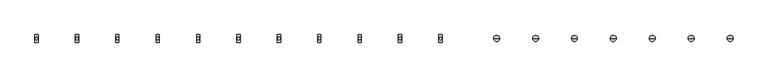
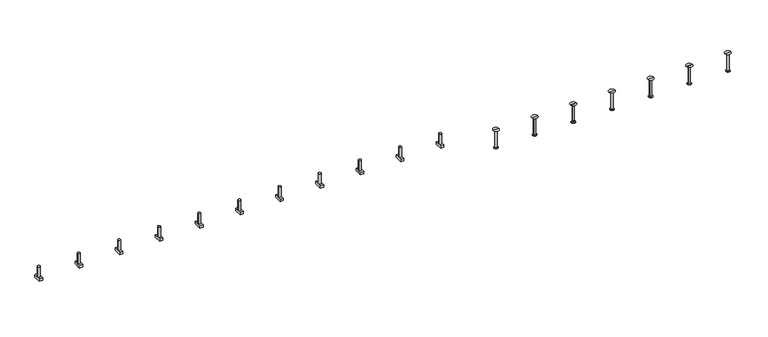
"""IFC4 building model written with IfcOpenShell, lengths in millimetres: fastener geometry, JTA-W JORDAHL® AnchorChannels : JTA-W L=6000 mm."""

from ifc_helpers import new_model, si_unit, frame, origin, place, context, project, spatial, polyline, circle_curve, source, transform, mapped, element, save
from ifc_brep_helpers import plane_surface, cylinder_surface, revolved_surface, advanced_brep


def fastener_a53ba8c5(model_context):
    return source(origin(), model_context, "Body", "AdvancedBrep", [
        advanced_brep(
        [(3474.3421053, 29.0, -10.0), (3474.3421053, -29.0, -10.0), (3474.3421053, -29.0, -30.0), (3474.3421053, 29.0, -30.0), (3449.3421053, 29.0, -10.0), (3449.3421053, 29.0, -30.0), (3449.3421053, -29.0, -30.0), (3449.3421053, -29.0, -10.0), (3471.8421053, 0.0, -10.0), (3451.8421053, 0.0, -10.0), (3451.8421053, 0.0, 70.0), (3471.8421053, 0.0, 70.0)],
        [
            (0, 1),
            (1, 2),
            (2, 3),
            (3, 0),
            (4, 5),
            (5, 6),
            (6, 7),
            (7, 4),
            (0, 4),
            (7, 1),
            (8, 9, circle_curve(frame((3461.8421053, 0.0, -10.0), z_axis=(0.0, 0.0, -1.0), x_axis=(1.0, 0.0, 0.0)), 10.0)),
            (9, 8, circle_curve(frame((3461.8421053, 0.0, -10.0), z_axis=(0.0, 0.0, -1.0), x_axis=(1.0, 0.0, 0.0)), 10.0)),
            (6, 2),
            (5, 3),
            (10, 11, circle_curve(frame((3461.8421053, 0.0, 70.0), z_axis=(0.0, 0.0, 1.0), x_axis=(1.0, 0.0, 0.0)), 10.0)),
            (11, 10, circle_curve(frame((3461.8421053, 0.0, 70.0), z_axis=(0.0, 0.0, 1.0), x_axis=(1.0, 0.0, 0.0)), 10.0)),
            (10, 9),
            (8, 11),
        ],
        [
            plane_surface(frame((3474.3421053, -29.0, -10.0), z_axis=(1.0, 0.0, 0.0), x_axis=(0.0, -1.0, 0.0))),
            plane_surface(frame((3449.3421053, -29.0, -10.0), z_axis=(-1.0, 0.0, 0.0), x_axis=(0.0, 1.0, 0.0))),
            plane_surface(frame((3474.3421053, 29.0, -10.0), z_axis=(0.0, 0.0, 1.0), x_axis=(-1.0, 0.0, 0.0))),
            plane_surface(frame((3474.3421053, -29.0, -10.0), z_axis=(0.0, -1.0, 0.0), x_axis=(-1.0, 0.0, 0.0))),
            plane_surface(frame((3474.3421053, -29.0, -30.0), z_axis=(0.0, 0.0, -1.0), x_axis=(-1.0, 0.0, 0.0))),
            plane_surface(frame((3474.3421053, 29.0, -30.0), z_axis=(0.0, 1.0, 0.0), x_axis=(-1.0, 0.0, 0.0))),
            plane_surface(frame((3471.8421053, 0.0, 70.0), z_axis=(0.0, 0.0, 1.0), x_axis=(0.0, 1.0, 0.0))),
            cylinder_surface(frame((3461.8421053, 0.0, -10.0), z_axis=(0.0, 0.0, 1.0), x_axis=(1.0, 0.0, 0.0)), 10.0),
        ],
        [
            (0, [[1, 2, 3, 4]]),
            (1, [[5, 6, 7, 8]]),
            (2, [[-1, 9, -8, 10], [11, 12]]),
            (3, [[-2, -10, -7, 13]]),
            (4, [[-3, -13, -6, 14]]),
            (5, [[-4, -14, -5, -9]]),
            (6, [[15, 16]]),
            (7, [[-15, 17, -11, 18]]),
            (7, [[-16, -18, -12, -17]]),
        ],
    ),
        advanced_brep(
        [(3166.4473684, 29.0, -10.0), (3166.4473684, -29.0, -10.0), (3166.4473684, -29.0, -30.0), (3166.4473684, 29.0, -30.0), (3141.4473684, 29.0, -10.0), (3141.4473684, 29.0, -30.0), (3141.4473684, -29.0, -30.0), (3141.4473684, -29.0, -10.0), (3163.9473684, 0.0, -10.0), (3143.9473684, 0.0, -10.0), (3143.9473684, 0.0, 70.0), (3163.9473684, 0.0, 70.0)],
        [
            (0, 1),
            (1, 2),
            (2, 3),
            (3, 0),
            (4, 5),
            (5, 6),
            (6, 7),
            (7, 4),
            (0, 4),
            (7, 1),
            (8, 9, circle_curve(frame((3153.9473684, 0.0, -10.0), z_axis=(0.0, 0.0, -1.0), x_axis=(1.0, 0.0, 0.0)), 10.0)),
            (9, 8, circle_curve(frame((3153.9473684, 0.0, -10.0), z_axis=(0.0, 0.0, -1.0), x_axis=(1.0, 0.0, 0.0)), 10.0)),
            (6, 2),
            (5, 3),
            (10, 11, circle_curve(frame((3153.9473684, 0.0, 70.0), z_axis=(0.0, 0.0, 1.0), x_axis=(1.0, 0.0, 0.0)), 10.0)),
            (11, 10, circle_curve(frame((3153.9473684, 0.0, 70.0), z_axis=(0.0, 0.0, 1.0), x_axis=(1.0, 0.0, 0.0)), 10.0)),
            (10, 9),
            (8, 11),
        ],
        [
            plane_surface(frame((3166.4473684, -29.0, -10.0), z_axis=(1.0, 0.0, 0.0), x_axis=(0.0, -1.0, 0.0))),
            plane_surface(frame((3141.4473684, -29.0, -10.0), z_axis=(-1.0, 0.0, 0.0), x_axis=(0.0, 1.0, 0.0))),
            plane_surface(frame((3166.4473684, 29.0, -10.0), z_axis=(0.0, 0.0, 1.0), x_axis=(-1.0, 0.0, 0.0))),
            plane_surface(frame((3166.4473684, -29.0, -10.0), z_axis=(0.0, -1.0, 0.0), x_axis=(-1.0, 0.0, 0.0))),
            plane_surface(frame((3166.4473684, -29.0, -30.0), z_axis=(0.0, 0.0, -1.0), x_axis=(-1.0, 0.0, 0.0))),
            plane_surface(frame((3166.4473684, 29.0, -30.0), z_axis=(0.0, 1.0, 0.0), x_axis=(-1.0, 0.0, 0.0))),
            plane_surface(frame((3163.9473684, 0.0, 70.0), z_axis=(0.0, 0.0, 1.0), x_axis=(0.0, 1.0, 0.0))),
            cylinder_surface(frame((3153.9473684, 0.0, -10.0), z_axis=(0.0, 0.0, 1.0), x_axis=(1.0, 0.0, 0.0)), 10.0),
        ],
        [
            (0, [[1, 2, 3, 4]]),
            (1, [[5, 6, 7, 8]]),
            (2, [[-1, 9, -8, 10], [11, 12]]),
            (3, [[-2, -10, -7, 13]]),
            (4, [[-3, -13, -6, 14]]),
            (5, [[-4, -14, -5, -9]]),
            (6, [[15, 16]]),
            (7, [[-15, 17, -11, 18]]),
            (7, [[-16, -18, -12, -17]]),
        ],
    ),
        advanced_brep(
        [(2858.5526316, 29.0, -10.0), (2858.5526316, -29.0, -10.0), (2858.5526316, -29.0, -30.0), (2858.5526316, 29.0, -30.0), (2833.5526316, 29.0, -10.0), (2833.5526316, 29.0, -30.0), (2833.5526316, -29.0, -30.0), (2833.5526316, -29.0, -10.0), (2856.0526316, 0.0, -10.0), (2836.0526316, 0.0, -10.0), (2836.0526316, 0.0, 70.0), (2856.0526316, 0.0, 70.0)],
        [
            (0, 1),
            (1, 2),
            (2, 3),
            (3, 0),
            (4, 5),
            (5, 6),
            (6, 7),
            (7, 4),
            (0, 4),
            (7, 1),
            (8, 9, circle_curve(frame((2846.0526316, 0.0, -10.0), z_axis=(0.0, 0.0, -1.0), x_axis=(1.0, 0.0, 0.0)), 10.0)),
            (9, 8, circle_curve(frame((2846.0526316, 0.0, -10.0), z_axis=(0.0, 0.0, -1.0), x_axis=(1.0, 0.0, 0.0)), 10.0)),
            (6, 2),
            (5, 3),
            (10, 11, circle_curve(frame((2846.0526316, 0.0, 70.0), z_axis=(0.0, 0.0, 1.0), x_axis=(1.0, 0.0, 0.0)), 10.0)),
            (11, 10, circle_curve(frame((2846.0526316, 0.0, 70.0), z_axis=(0.0, 0.0, 1.0), x_axis=(1.0, 0.0, 0.0)), 10.0)),
            (10, 9),
            (8, 11),
        ],
        [
            plane_surface(frame((2858.5526316, -29.0, -10.0), z_axis=(1.0, 0.0, 0.0), x_axis=(0.0, -1.0, 0.0))),
            plane_surface(frame((2833.5526316, -29.0, -10.0), z_axis=(-1.0, 0.0, 0.0), x_axis=(0.0, 1.0, 0.0))),
            plane_surface(frame((2858.5526316, 29.0, -10.0), z_axis=(0.0, 0.0, 1.0), x_axis=(-1.0, 0.0, 0.0))),
            plane_surface(frame((2858.5526316, -29.0, -10.0), z_axis=(0.0, -1.0, 0.0), x_axis=(-1.0, 0.0, 0.0))),
            plane_surface(frame((2858.5526316, -29.0, -30.0), z_axis=(0.0, 0.0, -1.0), x_axis=(-1.0, 0.0, 0.0))),
            plane_surface(frame((2858.5526316, 29.0, -30.0), z_axis=(0.0, 1.0, 0.0), x_axis=(-1.0, 0.0, 0.0))),
            plane_surface(frame((2856.0526316, 0.0, 70.0), z_axis=(0.0, 0.0, 1.0), x_axis=(0.0, 1.0, 0.0))),
            cylinder_surface(frame((2846.0526316, 0.0, -10.0), z_axis=(0.0, 0.0, 1.0), x_axis=(1.0, 0.0, 0.0)), 10.0),
        ],
        [
            (0, [[1, 2, 3, 4]]),
            (1, [[5, 6, 7, 8]]),
            (2, [[-1, 9, -8, 10], [11, 12]]),
            (3, [[-2, -10, -7, 13]]),
            (4, [[-3, -13, -6, 14]]),
            (5, [[-4, -14, -5, -9]]),
            (6, [[15, 16]]),
            (7, [[-15, 17, -11, 18]]),
            (7, [[-16, -18, -12, -17]]),
        ],
    ),
        advanced_brep(
        [(2550.6578947, 29.0, -10.0), (2550.6578947, -29.0, -10.0), (2550.6578947, -29.0, -30.0), (2550.6578947, 29.0, -30.0), (2525.6578947, 29.0, -10.0), (2525.6578947, 29.0, -30.0), (2525.6578947, -29.0, -30.0), (2525.6578947, -29.0, -10.0), (2548.1578947, 0.0, -10.0), (2528.1578947, 0.0, -10.0), (2528.1578947, 0.0, 70.0), (2548.1578947, 0.0, 70.0)],
        [
            (0, 1),
            (1, 2),
            (2, 3),
            (3, 0),
            (4, 5),
            (5, 6),
            (6, 7),
            (7, 4),
            (0, 4),
            (7, 1),
            (8, 9, circle_curve(frame((2538.1578947, 0.0, -10.0), z_axis=(0.0, 0.0, -1.0), x_axis=(1.0, 0.0, 0.0)), 10.0)),
            (9, 8, circle_curve(frame((2538.1578947, 0.0, -10.0), z_axis=(0.0, 0.0, -1.0), x_axis=(1.0, 0.0, 0.0)), 10.0)),
            (6, 2),
            (5, 3),
            (10, 11, circle_curve(frame((2538.1578947, 0.0, 70.0), z_axis=(0.0, 0.0, 1.0), x_axis=(1.0, 0.0, 0.0)), 10.0)),
            (11, 10, circle_curve(frame((2538.1578947, 0.0, 70.0), z_axis=(0.0, 0.0, 1.0), x_axis=(1.0, 0.0, 0.0)), 10.0)),
            (10, 9),
            (8, 11),
        ],
        [
            plane_surface(frame((2550.6578947, -29.0, -10.0), z_axis=(1.0, 0.0, 0.0), x_axis=(0.0, -1.0, 0.0))),
            plane_surface(frame((2525.6578947, -29.0, -10.0), z_axis=(-1.0, 0.0, 0.0), x_axis=(0.0, 1.0, 0.0))),
            plane_surface(frame((2550.6578947, 29.0, -10.0), z_axis=(0.0, 0.0, 1.0), x_axis=(-1.0, 0.0, 0.0))),
            plane_surface(frame((2550.6578947, -29.0, -10.0), z_axis=(0.0, -1.0, 0.0), x_axis=(-1.0, 0.0, 0.0))),
            plane_surface(frame((2550.6578947, -29.0, -30.0), z_axis=(0.0, 0.0, -1.0), x_axis=(-1.0, 0.0, 0.0))),
            plane_surface(frame((2550.6578947, 29.0, -30.0), z_axis=(0.0, 1.0, 0.0), x_axis=(-1.0, 0.0, 0.0))),
            plane_surface(frame((2548.1578947, 0.0, 70.0), z_axis=(0.0, 0.0, 1.0), x_axis=(0.0, 1.0, 0.0))),
            cylinder_surface(frame((2538.1578947, 0.0, -10.0), z_axis=(0.0, 0.0, 1.0), x_axis=(1.0, 0.0, 0.0)), 10.0),
        ],
        [
            (0, [[1, 2, 3, 4]]),
            (1, [[5, 6, 7, 8]]),
            (2, [[-1, 9, -8, 10], [11, 12]]),
            (3, [[-2, -10, -7, 13]]),
            (4, [[-3, -13, -6, 14]]),
            (5, [[-4, -14, -5, -9]]),
            (6, [[15, 16]]),
            (7, [[-15, 17, -11, 18]]),
            (7, [[-16, -18, -12, -17]]),
        ],
    ),
        advanced_brep(
        [(2242.7631579, 29.0, -10.0), (2242.7631579, -29.0, -10.0), (2242.7631579, -29.0, -30.0), (2242.7631579, 29.0, -30.0), (2217.7631579, 29.0, -10.0), (2217.7631579, 29.0, -30.0), (2217.7631579, -29.0, -30.0), (2217.7631579, -29.0, -10.0), (2240.2631579, 0.0, -10.0), (2220.2631579, 0.0, -10.0), (2220.2631579, 0.0, 70.0), (2240.2631579, 0.0, 70.0)],
        [
            (0, 1),
            (1, 2),
            (2, 3),
            (3, 0),
            (4, 5),
            (5, 6),
            (6, 7),
            (7, 4),
            (0, 4),
            (7, 1),
            (8, 9, circle_curve(frame((2230.2631579, 0.0, -10.0), z_axis=(0.0, 0.0, -1.0), x_axis=(1.0, 0.0, 0.0)), 10.0)),
            (9, 8, circle_curve(frame((2230.2631579, 0.0, -10.0), z_axis=(0.0, 0.0, -1.0), x_axis=(1.0, 0.0, 0.0)), 10.0)),
            (6, 2),
            (5, 3),
            (10, 11, circle_curve(frame((2230.2631579, 0.0, 70.0), z_axis=(0.0, 0.0, 1.0), x_axis=(1.0, 0.0, 0.0)), 10.0)),
            (11, 10, circle_curve(frame((2230.2631579, 0.0, 70.0), z_axis=(0.0, 0.0, 1.0), x_axis=(1.0, 0.0, 0.0)), 10.0)),
            (10, 9),
            (8, 11),
        ],
        [
            plane_surface(frame((2242.7631579, -29.0, -10.0), z_axis=(1.0, 0.0, 0.0), x_axis=(0.0, -1.0, 0.0))),
            plane_surface(frame((2217.7631579, -29.0, -10.0), z_axis=(-1.0, 0.0, 0.0), x_axis=(0.0, 1.0, 0.0))),
            plane_surface(frame((2242.7631579, 29.0, -10.0), z_axis=(0.0, 0.0, 1.0), x_axis=(-1.0, 0.0, 0.0))),
            plane_surface(frame((2242.7631579, -29.0, -10.0), z_axis=(0.0, -1.0, 0.0), x_axis=(-1.0, 0.0, 0.0))),
            plane_surface(frame((2242.7631579, -29.0, -30.0), z_axis=(0.0, 0.0, -1.0), x_axis=(-1.0, 0.0, 0.0))),
            plane_surface(frame((2242.7631579, 29.0, -30.0), z_axis=(0.0, 1.0, 0.0), x_axis=(-1.0, 0.0, 0.0))),
            plane_surface(frame((2240.2631579, 0.0, 70.0), z_axis=(0.0, 0.0, 1.0), x_axis=(0.0, 1.0, 0.0))),
            cylinder_surface(frame((2230.2631579, 0.0, -10.0), z_axis=(0.0, 0.0, 1.0), x_axis=(1.0, 0.0, 0.0)), 10.0),
        ],
        [
            (0, [[1, 2, 3, 4]]),
            (1, [[5, 6, 7, 8]]),
            (2, [[-1, 9, -8, 10], [11, 12]]),
            (3, [[-2, -10, -7, 13]]),
            (4, [[-3, -13, -6, 14]]),
            (5, [[-4, -14, -5, -9]]),
            (6, [[15, 16]]),
            (7, [[-15, 17, -11, 18]]),
            (7, [[-16, -18, -12, -17]]),
        ],
    ),
        advanced_brep(
        [(1934.8684211, 29.0, -10.0), (1934.8684211, -29.0, -10.0), (1934.8684211, -29.0, -30.0), (1934.8684211, 29.0, -30.0), (1909.8684211, 29.0, -10.0), (1909.8684211, 29.0, -30.0), (1909.8684211, -29.0, -30.0), (1909.8684211, -29.0, -10.0), (1932.3684211, 0.0, -10.0), (1912.3684211, 0.0, -10.0), (1912.3684211, 0.0, 70.0), (1932.3684211, 0.0, 70.0)],
        [
            (0, 1),
            (1, 2),
            (2, 3),
            (3, 0),
            (4, 5),
            (5, 6),
            (6, 7),
            (7, 4),
            (0, 4),
            (7, 1),
            (8, 9, circle_curve(frame((1922.3684211, 0.0, -10.0), z_axis=(0.0, 0.0, -1.0), x_axis=(1.0, 0.0, 0.0)), 10.0)),
            (9, 8, circle_curve(frame((1922.3684211, 0.0, -10.0), z_axis=(0.0, 0.0, -1.0), x_axis=(1.0, 0.0, 0.0)), 10.0)),
            (6, 2),
            (5, 3),
            (10, 11, circle_curve(frame((1922.3684211, 0.0, 70.0), z_axis=(0.0, 0.0, 1.0), x_axis=(1.0, 0.0, 0.0)), 10.0)),
            (11, 10, circle_curve(frame((1922.3684211, 0.0, 70.0), z_axis=(0.0, 0.0, 1.0), x_axis=(1.0, 0.0, 0.0)), 10.0)),
            (10, 9),
            (8, 11),
        ],
        [
            plane_surface(frame((1934.8684211, -29.0, -10.0), z_axis=(1.0, 0.0, 0.0), x_axis=(0.0, -1.0, 0.0))),
            plane_surface(frame((1909.8684211, -29.0, -10.0), z_axis=(-1.0, 0.0, 0.0), x_axis=(0.0, 1.0, 0.0))),
            plane_surface(frame((1934.8684211, 29.0, -10.0), z_axis=(0.0, 0.0, 1.0), x_axis=(-1.0, 0.0, 0.0))),
            plane_surface(frame((1934.8684211, -29.0, -10.0), z_axis=(0.0, -1.0, 0.0), x_axis=(-1.0, 0.0, 0.0))),
            plane_surface(frame((1934.8684211, -29.0, -30.0), z_axis=(0.0, 0.0, -1.0), x_axis=(-1.0, 0.0, 0.0))),
            plane_surface(frame((1934.8684211, 29.0, -30.0), z_axis=(0.0, 1.0, 0.0), x_axis=(-1.0, 0.0, 0.0))),
            plane_surface(frame((1932.3684211, 0.0, 70.0), z_axis=(0.0, 0.0, 1.0), x_axis=(0.0, 1.0, 0.0))),
            cylinder_surface(frame((1922.3684211, 0.0, -10.0), z_axis=(0.0, 0.0, 1.0), x_axis=(1.0, 0.0, 0.0)), 10.0),
        ],
        [
            (0, [[1, 2, 3, 4]]),
            (1, [[5, 6, 7, 8]]),
            (2, [[-1, 9, -8, 10], [11, 12]]),
            (3, [[-2, -10, -7, 13]]),
            (4, [[-3, -13, -6, 14]]),
            (5, [[-4, -14, -5, -9]]),
            (6, [[15, 16]]),
            (7, [[-15, 17, -11, 18]]),
            (7, [[-16, -18, -12, -17]]),
        ],
    ),
        advanced_brep(
        [(1626.9736842, 29.0, -10.0), (1626.9736842, -29.0, -10.0), (1626.9736842, -29.0, -30.0), (1626.9736842, 29.0, -30.0), (1601.9736842, 29.0, -10.0), (1601.9736842, 29.0, -30.0), (1601.9736842, -29.0, -30.0), (1601.9736842, -29.0, -10.0), (1624.4736842, 0.0, -10.0), (1604.4736842, 0.0, -10.0), (1604.4736842, 0.0, 70.0), (1624.4736842, 0.0, 70.0)],
        [
            (0, 1),
            (1, 2),
            (2, 3),
            (3, 0),
            (4, 5),
            (5, 6),
            (6, 7),
            (7, 4),
            (0, 4),
            (7, 1),
            (8, 9, circle_curve(frame((1614.4736842, 0.0, -10.0), z_axis=(0.0, 0.0, -1.0), x_axis=(1.0, 0.0, 0.0)), 10.0)),
            (9, 8, circle_curve(frame((1614.4736842, 0.0, -10.0), z_axis=(0.0, 0.0, -1.0), x_axis=(1.0, 0.0, 0.0)), 10.0)),
            (6, 2),
            (5, 3),
            (10, 11, circle_curve(frame((1614.4736842, 0.0, 70.0), z_axis=(0.0, 0.0, 1.0), x_axis=(1.0, 0.0, 0.0)), 10.0)),
            (11, 10, circle_curve(frame((1614.4736842, 0.0, 70.0), z_axis=(0.0, 0.0, 1.0), x_axis=(1.0, 0.0, 0.0)), 10.0)),
            (10, 9),
            (8, 11),
        ],
        [
            plane_surface(frame((1626.9736842, -29.0, -10.0), z_axis=(1.0, 0.0, 0.0), x_axis=(0.0, -1.0, 0.0))),
            plane_surface(frame((1601.9736842, -29.0, -10.0), z_axis=(-1.0, 0.0, 0.0), x_axis=(0.0, 1.0, 0.0))),
            plane_surface(frame((1626.9736842, 29.0, -10.0), z_axis=(0.0, 0.0, 1.0), x_axis=(-1.0, 0.0, 0.0))),
            plane_surface(frame((1626.9736842, -29.0, -10.0), z_axis=(0.0, -1.0, 0.0), x_axis=(-1.0, 0.0, 0.0))),
            plane_surface(frame((1626.9736842, -29.0, -30.0), z_axis=(0.0, 0.0, -1.0), x_axis=(-1.0, 0.0, 0.0))),
            plane_surface(frame((1626.9736842, 29.0, -30.0), z_axis=(0.0, 1.0, 0.0), x_axis=(-1.0, 0.0, 0.0))),
            plane_surface(frame((1624.4736842, 0.0, 70.0), z_axis=(0.0, 0.0, 1.0), x_axis=(0.0, 1.0, 0.0))),
            cylinder_surface(frame((1614.4736842, 0.0, -10.0), z_axis=(0.0, 0.0, 1.0), x_axis=(1.0, 0.0, 0.0)), 10.0),
        ],
        [
            (0, [[1, 2, 3, 4]]),
            (1, [[5, 6, 7, 8]]),
            (2, [[-1, 9, -8, 10], [11, 12]]),
            (3, [[-2, -10, -7, 13]]),
            (4, [[-3, -13, -6, 14]]),
            (5, [[-4, -14, -5, -9]]),
            (6, [[15, 16]]),
            (7, [[-15, 17, -11, 18]]),
            (7, [[-16, -18, -12, -17]]),
        ],
    ),
        advanced_brep(
        [(1319.0789474, 29.0, -10.0), (1319.0789474, -29.0, -10.0), (1319.0789474, -29.0, -30.0), (1319.0789474, 29.0, -30.0), (1294.0789474, 29.0, -10.0), (1294.0789474, 29.0, -30.0), (1294.0789474, -29.0, -30.0), (1294.0789474, -29.0, -10.0), (1316.5789474, 0.0, -10.0), (1296.5789474, 0.0, -10.0), (1296.5789474, 0.0, 70.0), (1316.5789474, 0.0, 70.0)],
        [
            (0, 1),
            (1, 2),
            (2, 3),
            (3, 0),
            (4, 5),
            (5, 6),
            (6, 7),
            (7, 4),
            (0, 4),
            (7, 1),
            (8, 9, circle_curve(frame((1306.5789474, 0.0, -10.0), z_axis=(0.0, 0.0, -1.0), x_axis=(1.0, 0.0, 0.0)), 10.0)),
            (9, 8, circle_curve(frame((1306.5789474, 0.0, -10.0), z_axis=(0.0, 0.0, -1.0), x_axis=(1.0, 0.0, 0.0)), 10.0)),
            (6, 2),
            (5, 3),
            (10, 11, circle_curve(frame((1306.5789474, 0.0, 70.0), z_axis=(0.0, 0.0, 1.0), x_axis=(1.0, 0.0, 0.0)), 10.0)),
            (11, 10, circle_curve(frame((1306.5789474, 0.0, 70.0), z_axis=(0.0, 0.0, 1.0), x_axis=(1.0, 0.0, 0.0)), 10.0)),
            (10, 9),
            (8, 11),
        ],
        [
            plane_surface(frame((1319.0789474, -29.0, -10.0), z_axis=(1.0, 0.0, 0.0), x_axis=(0.0, -1.0, 0.0))),
            plane_surface(frame((1294.0789474, -29.0, -10.0), z_axis=(-1.0, 0.0, 0.0), x_axis=(0.0, 1.0, 0.0))),
            plane_surface(frame((1319.0789474, 29.0, -10.0), z_axis=(0.0, 0.0, 1.0), x_axis=(-1.0, 0.0, 0.0))),
            plane_surface(frame((1319.0789474, -29.0, -10.0), z_axis=(0.0, -1.0, 0.0), x_axis=(-1.0, 0.0, 0.0))),
            plane_surface(frame((1319.0789474, -29.0, -30.0), z_axis=(0.0, 0.0, -1.0), x_axis=(-1.0, 0.0, 0.0))),
            plane_surface(frame((1319.0789474, 29.0, -30.0), z_axis=(0.0, 1.0, 0.0), x_axis=(-1.0, 0.0, 0.0))),
            plane_surface(frame((1316.5789474, 0.0, 70.0), z_axis=(0.0, 0.0, 1.0), x_axis=(0.0, 1.0, 0.0))),
            cylinder_surface(frame((1306.5789474, 0.0, -10.0), z_axis=(0.0, 0.0, 1.0), x_axis=(1.0, 0.0, 0.0)), 10.0),
        ],
        [
            (0, [[1, 2, 3, 4]]),
            (1, [[5, 6, 7, 8]]),
            (2, [[-1, 9, -8, 10], [11, 12]]),
            (3, [[-2, -10, -7, 13]]),
            (4, [[-3, -13, -6, 14]]),
            (5, [[-4, -14, -5, -9]]),
            (6, [[15, 16]]),
            (7, [[-15, 17, -11, 18]]),
            (7, [[-16, -18, -12, -17]]),
        ],
    ),
        advanced_brep(
        [(1011.1842105, 29.0, -10.0), (1011.1842105, -29.0, -10.0), (1011.1842105, -29.0, -30.0), (1011.1842105, 29.0, -30.0), (986.1842105, 29.0, -10.0), (986.1842105, 29.0, -30.0), (986.1842105, -29.0, -30.0), (986.1842105, -29.0, -10.0), (1008.6842105, 0.0, -10.0), (988.6842105, 0.0, -10.0), (988.6842105, 0.0, 70.0), (1008.6842105, 0.0, 70.0)],
        [
            (0, 1),
            (1, 2),
            (2, 3),
            (3, 0),
            (4, 5),
            (5, 6),
            (6, 7),
            (7, 4),
            (0, 4),
            (7, 1),
            (8, 9, circle_curve(frame((998.6842105, 0.0, -10.0), z_axis=(0.0, 0.0, -1.0), x_axis=(1.0, 0.0, 0.0)), 10.0)),
            (9, 8, circle_curve(frame((998.6842105, 0.0, -10.0), z_axis=(0.0, 0.0, -1.0), x_axis=(1.0, 0.0, 0.0)), 10.0)),
            (6, 2),
            (5, 3),
            (10, 11, circle_curve(frame((998.6842105, 0.0, 70.0), z_axis=(0.0, 0.0, 1.0), x_axis=(1.0, 0.0, 0.0)), 10.0)),
            (11, 10, circle_curve(frame((998.6842105, 0.0, 70.0), z_axis=(0.0, 0.0, 1.0), x_axis=(1.0, 0.0, 0.0)), 10.0)),
            (10, 9),
            (8, 11),
        ],
        [
            plane_surface(frame((1011.1842105, -29.0, -10.0), z_axis=(1.0, 0.0, 0.0), x_axis=(0.0, -1.0, 0.0))),
            plane_surface(frame((986.1842105, -29.0, -10.0), z_axis=(-1.0, 0.0, 0.0), x_axis=(0.0, 1.0, 0.0))),
            plane_surface(frame((1011.1842105, 29.0, -10.0), z_axis=(0.0, 0.0, 1.0), x_axis=(-1.0, 0.0, 0.0))),
            plane_surface(frame((1011.1842105, -29.0, -10.0), z_axis=(0.0, -1.0, 0.0), x_axis=(-1.0, 0.0, 0.0))),
            plane_surface(frame((1011.1842105, -29.0, -30.0), z_axis=(0.0, 0.0, -1.0), x_axis=(-1.0, 0.0, 0.0))),
            plane_surface(frame((1011.1842105, 29.0, -30.0), z_axis=(0.0, 1.0, 0.0), x_axis=(-1.0, 0.0, 0.0))),
            plane_surface(frame((1008.6842105, 0.0, 70.0), z_axis=(0.0, 0.0, 1.0), x_axis=(0.0, 1.0, 0.0))),
            cylinder_surface(frame((998.6842105, 0.0, -10.0), z_axis=(0.0, 0.0, 1.0), x_axis=(1.0, 0.0, 0.0)), 10.0),
        ],
        [
            (0, [[1, 2, 3, 4]]),
            (1, [[5, 6, 7, 8]]),
            (2, [[-1, 9, -8, 10], [11, 12]]),
            (3, [[-2, -10, -7, 13]]),
            (4, [[-3, -13, -6, 14]]),
            (5, [[-4, -14, -5, -9]]),
            (6, [[15, 16]]),
            (7, [[-15, 17, -11, 18]]),
            (7, [[-16, -18, -12, -17]]),
        ],
    ),
        advanced_brep(
        [(703.2894737, 29.0, -10.0), (703.2894737, -29.0, -10.0), (703.2894737, -29.0, -30.0), (703.2894737, 29.0, -30.0), (678.2894737, 29.0, -10.0), (678.2894737, 29.0, -30.0), (678.2894737, -29.0, -30.0), (678.2894737, -29.0, -10.0), (700.7894737, 0.0, -10.0), (680.7894737, 0.0, -10.0), (680.7894737, 0.0, 70.0), (700.7894737, 0.0, 70.0)],
        [
            (0, 1),
            (1, 2),
            (2, 3),
            (3, 0),
            (4, 5),
            (5, 6),
            (6, 7),
            (7, 4),
            (0, 4),
            (7, 1),
            (8, 9, circle_curve(frame((690.7894737, 0.0, -10.0), z_axis=(0.0, 0.0, -1.0), x_axis=(1.0, 0.0, 0.0)), 10.0)),
            (9, 8, circle_curve(frame((690.7894737, 0.0, -10.0), z_axis=(0.0, 0.0, -1.0), x_axis=(1.0, 0.0, 0.0)), 10.0)),
            (6, 2),
            (5, 3),
            (10, 11, circle_curve(frame((690.7894737, 0.0, 70.0), z_axis=(0.0, 0.0, 1.0), x_axis=(1.0, 0.0, 0.0)), 10.0)),
            (11, 10, circle_curve(frame((690.7894737, 0.0, 70.0), z_axis=(0.0, 0.0, 1.0), x_axis=(1.0, 0.0, 0.0)), 10.0)),
            (10, 9),
            (8, 11),
        ],
        [
            plane_surface(frame((703.2894737, -29.0, -10.0), z_axis=(1.0, 0.0, 0.0), x_axis=(0.0, -1.0, 0.0))),
            plane_surface(frame((678.2894737, -29.0, -10.0), z_axis=(-1.0, 0.0, 0.0), x_axis=(0.0, 1.0, 0.0))),
            plane_surface(frame((703.2894737, 29.0, -10.0), z_axis=(0.0, 0.0, 1.0), x_axis=(-1.0, 0.0, 0.0))),
            plane_surface(frame((703.2894737, -29.0, -10.0), z_axis=(0.0, -1.0, 0.0), x_axis=(-1.0, 0.0, 0.0))),
            plane_surface(frame((703.2894737, -29.0, -30.0), z_axis=(0.0, 0.0, -1.0), x_axis=(-1.0, 0.0, 0.0))),
            plane_surface(frame((703.2894737, 29.0, -30.0), z_axis=(0.0, 1.0, 0.0), x_axis=(-1.0, 0.0, 0.0))),
            plane_surface(frame((700.7894737, 0.0, 70.0), z_axis=(0.0, 0.0, 1.0), x_axis=(0.0, 1.0, 0.0))),
            cylinder_surface(frame((690.7894737, 0.0, -10.0), z_axis=(0.0, 0.0, 1.0), x_axis=(1.0, 0.0, 0.0)), 10.0),
        ],
        [
            (0, [[1, 2, 3, 4]]),
            (1, [[5, 6, 7, 8]]),
            (2, [[-1, 9, -8, 10], [11, 12]]),
            (3, [[-2, -10, -7, 13]]),
            (4, [[-3, -13, -6, 14]]),
            (5, [[-4, -14, -5, -9]]),
            (6, [[15, 16]]),
            (7, [[-15, 17, -11, 18]]),
            (7, [[-16, -18, -12, -17]]),
        ],
    ),
        advanced_brep(
        [(395.3947368, 29.0, -10.0), (395.3947368, -29.0, -10.0), (395.3947368, -29.0, -30.0), (395.3947368, 29.0, -30.0), (370.3947368, 29.0, -10.0), (370.3947368, 29.0, -30.0), (370.3947368, -29.0, -30.0), (370.3947368, -29.0, -10.0), (392.8947368, 0.0, -10.0), (372.8947368, 0.0, -10.0), (372.8947368, 0.0, 70.0), (392.8947368, 0.0, 70.0)],
        [
            (0, 1),
            (1, 2),
            (2, 3),
            (3, 0),
            (4, 5),
            (5, 6),
            (6, 7),
            (7, 4),
            (0, 4),
            (7, 1),
            (8, 9, circle_curve(frame((382.8947368, 0.0, -10.0), z_axis=(0.0, 0.0, -1.0), x_axis=(1.0, 0.0, 0.0)), 10.0)),
            (9, 8, circle_curve(frame((382.8947368, 0.0, -10.0), z_axis=(0.0, 0.0, -1.0), x_axis=(1.0, 0.0, 0.0)), 10.0)),
            (6, 2),
            (5, 3),
            (10, 11, circle_curve(frame((382.8947368, 0.0, 70.0), z_axis=(0.0, 0.0, 1.0), x_axis=(1.0, 0.0, 0.0)), 10.0)),
            (11, 10, circle_curve(frame((382.8947368, 0.0, 70.0), z_axis=(0.0, 0.0, 1.0), x_axis=(1.0, 0.0, 0.0)), 10.0)),
            (10, 9),
            (8, 11),
        ],
        [
            plane_surface(frame((395.3947368, -29.0, -10.0), z_axis=(1.0, 0.0, 0.0), x_axis=(0.0, -1.0, 0.0))),
            plane_surface(frame((370.3947368, -29.0, -10.0), z_axis=(-1.0, 0.0, 0.0), x_axis=(0.0, 1.0, 0.0))),
            plane_surface(frame((395.3947368, 29.0, -10.0), z_axis=(0.0, 0.0, 1.0), x_axis=(-1.0, 0.0, 0.0))),
            plane_surface(frame((395.3947368, -29.0, -10.0), z_axis=(0.0, -1.0, 0.0), x_axis=(-1.0, 0.0, 0.0))),
            plane_surface(frame((395.3947368, -29.0, -30.0), z_axis=(0.0, 0.0, -1.0), x_axis=(-1.0, 0.0, 0.0))),
            plane_surface(frame((395.3947368, 29.0, -30.0), z_axis=(0.0, 1.0, 0.0), x_axis=(-1.0, 0.0, 0.0))),
            plane_surface(frame((392.8947368, 0.0, 70.0), z_axis=(0.0, 0.0, 1.0), x_axis=(0.0, 1.0, 0.0))),
            cylinder_surface(frame((382.8947368, 0.0, -10.0), z_axis=(0.0, 0.0, 1.0), x_axis=(1.0, 0.0, 0.0)), 10.0),
        ],
        [
            (0, [[1, 2, 3, 4]]),
            (1, [[5, 6, 7, 8]]),
            (2, [[-1, 9, -8, 10], [11, 12]]),
            (3, [[-2, -10, -7, 13]]),
            (4, [[-3, -13, -6, 14]]),
            (5, [[-4, -14, -5, -9]]),
            (6, [[15, 16]]),
            (7, [[-15, 17, -11, 18]]),
            (7, [[-16, -18, -12, -17]]),
        ],
    ),
        advanced_brep(
        [(5668.5, 0.0, -48.0), (5691.5, 0.0, -48.0), (5645.5, 0.0, -48.0), (5653.0, 0.0, -195.0), (5684.0, 0.0, -195.0), (5668.5, 0.0, -195.0), (5653.0, 0.0, -193.0), (5684.0, 0.0, -193.0), (5660.7, 0.0, -188.5544029), (5676.3, 0.0, -188.5544029), (5660.7, 0.0, -52.0), (5676.3, 0.0, -52.0)],
        [
            (0, 1),
            (1, 2, circle_curve(frame((5668.5, 0.0, -48.0), z_axis=(0.0, 0.0, 1.0), x_axis=(1.0, 0.0, 0.0)), 23.0)),
            (2, 0),
            (2, 1, circle_curve(frame((5668.5, 0.0, -48.0), z_axis=(0.0, 0.0, 1.0), x_axis=(1.0, 0.0, 0.0)), 23.0)),
            (3, 4, circle_curve(frame((5668.5, 0.0, -195.0), z_axis=(0.0, 0.0, -1.0), x_axis=(1.0, 0.0, 0.0)), 15.5)),
            (4, 5),
            (5, 3),
            (4, 3, circle_curve(frame((5668.5, 0.0, -195.0), z_axis=(0.0, 0.0, -1.0), x_axis=(1.0, 0.0, 0.0)), 15.5)),
            (6, 7, circle_curve(frame((5668.5, 0.0, -193.0), z_axis=(0.0, 0.0, -1.0), x_axis=(1.0, 0.0, 0.0)), 15.5)),
            (7, 4),
            (3, 6),
            (7, 6, circle_curve(frame((5668.5, 0.0, -193.0), z_axis=(0.0, 0.0, -1.0), x_axis=(1.0, 0.0, 0.0)), 15.5)),
            (8, 9, circle_curve(frame((5668.5, 0.0, -188.5544029), z_axis=(0.0, 0.0, -1.0), x_axis=(1.0, 0.0, 0.0)), 7.8)),
            (9, 7),
            (6, 8),
            (9, 8, circle_curve(frame((5668.5, 0.0, -188.5544029), z_axis=(0.0, 0.0, -1.0), x_axis=(1.0, 0.0, 0.0)), 7.8)),
            (10, 11, circle_curve(frame((5668.5, 0.0, -52.0), z_axis=(0.0, 0.0, -1.0), x_axis=(1.0, 0.0, 0.0)), 7.8)),
            (11, 9),
            (8, 10),
            (11, 10, circle_curve(frame((5668.5, 0.0, -52.0), z_axis=(0.0, 0.0, -1.0), x_axis=(1.0, 0.0, 0.0)), 7.8)),
            (1, 11),
            (10, 2),
        ],
        [
            plane_surface(frame((5668.5, 0.0, -48.0), z_axis=(0.0, 0.0, 1.0), x_axis=(1.0, 0.0, 0.0))),
            plane_surface(frame((5668.5, 0.0, -195.0), z_axis=(0.0, 0.0, -1.0), x_axis=(1.0, 0.0, 0.0))),
            cylinder_surface(frame((5668.5, 0.0, 2361.3150031), z_axis=(0.0, 0.0, 1.0), x_axis=(1.0, 0.0, 0.0)), 15.5),
            revolved_surface(polyline([(5684.0, 0.0, -193.0), (5676.3, 0.0, -188.5544029)]), (5668.5, 0.0, 2361.3150031), (0.0, 0.0, 1.0)),
            cylinder_surface(frame((5668.5, 0.0, 2361.3150031), z_axis=(0.0, 0.0, 1.0), x_axis=(1.0, 0.0, 0.0)), 7.8),
            revolved_surface(polyline([(5676.3, 0.0, -52.0), (5691.5, 0.0, -48.0)]), (5668.5, 0.0, 2361.3150031), (0.0, 0.0, 1.0)),
        ],
        [
            (0, [[1, 2, 3]]),
            (0, [[-3, 4, -1]]),
            (1, [[5, 6, 7]]),
            (1, [[8, -7, -6]]),
            (2, [[9, 10, -5, 11]]),
            (2, [[12, -11, -8, -10]]),
            (3, [[13, 14, -9, 15]]),
            (3, [[16, -15, -12, -14]]),
            (4, [[17, 18, -13, 19]]),
            (4, [[20, -19, -16, -18]]),
            (5, [[-2, 21, -17, 22]]),
            (5, [[-4, -22, -20, -21]]),
        ],
    ),
        advanced_brep(
        [(5372.0, 0.0, -48.0), (5395.0, 0.0, -48.0), (5349.0, 0.0, -48.0), (5356.5, 0.0, -195.0), (5387.5, 0.0, -195.0), (5372.0, 0.0, -195.0), (5356.5, 0.0, -193.0), (5387.5, 0.0, -193.0), (5364.2, 0.0, -188.5544029), (5379.8, 0.0, -188.5544029), (5364.2, 0.0, -52.0), (5379.8, 0.0, -52.0)],
        [
            (0, 1),
            (1, 2, circle_curve(frame((5372.0, 0.0, -48.0), z_axis=(0.0, 0.0, 1.0), x_axis=(1.0, 0.0, 0.0)), 23.0)),
            (2, 0),
            (2, 1, circle_curve(frame((5372.0, 0.0, -48.0), z_axis=(0.0, 0.0, 1.0), x_axis=(1.0, 0.0, 0.0)), 23.0)),
            (3, 4, circle_curve(frame((5372.0, 0.0, -195.0), z_axis=(0.0, 0.0, -1.0), x_axis=(1.0, 0.0, 0.0)), 15.5)),
            (4, 5),
            (5, 3),
            (4, 3, circle_curve(frame((5372.0, 0.0, -195.0), z_axis=(0.0, 0.0, -1.0), x_axis=(1.0, 0.0, 0.0)), 15.5)),
            (6, 7, circle_curve(frame((5372.0, 0.0, -193.0), z_axis=(0.0, 0.0, -1.0), x_axis=(1.0, 0.0, 0.0)), 15.5)),
            (7, 4),
            (3, 6),
            (7, 6, circle_curve(frame((5372.0, 0.0, -193.0), z_axis=(0.0, 0.0, -1.0), x_axis=(1.0, 0.0, 0.0)), 15.5)),
            (8, 9, circle_curve(frame((5372.0, 0.0, -188.5544029), z_axis=(0.0, 0.0, -1.0), x_axis=(1.0, 0.0, 0.0)), 7.8)),
            (9, 7),
            (6, 8),
            (9, 8, circle_curve(frame((5372.0, 0.0, -188.5544029), z_axis=(0.0, 0.0, -1.0), x_axis=(1.0, 0.0, 0.0)), 7.8)),
            (10, 11, circle_curve(frame((5372.0, 0.0, -52.0), z_axis=(0.0, 0.0, -1.0), x_axis=(1.0, 0.0, 0.0)), 7.8)),
            (11, 9),
            (8, 10),
            (11, 10, circle_curve(frame((5372.0, 0.0, -52.0), z_axis=(0.0, 0.0, -1.0), x_axis=(1.0, 0.0, 0.0)), 7.8)),
            (1, 11),
            (10, 2),
        ],
        [
            plane_surface(frame((5372.0, 0.0, -48.0), z_axis=(0.0, 0.0, 1.0), x_axis=(1.0, 0.0, 0.0))),
            plane_surface(frame((5372.0, 0.0, -195.0), z_axis=(0.0, 0.0, -1.0), x_axis=(1.0, 0.0, 0.0))),
            cylinder_surface(frame((5372.0, 0.0, 2361.3150031), z_axis=(0.0, 0.0, 1.0), x_axis=(1.0, 0.0, 0.0)), 15.5),
            revolved_surface(polyline([(5387.5, 0.0, -193.0), (5379.8, 0.0, -188.5544029)]), (5372.0, 0.0, 2361.3150031), (0.0, 0.0, 1.0)),
            cylinder_surface(frame((5372.0, 0.0, 2361.3150031), z_axis=(0.0, 0.0, 1.0), x_axis=(1.0, 0.0, 0.0)), 7.8),
            revolved_surface(polyline([(5379.8, 0.0, -52.0), (5395.0, 0.0, -48.0)]), (5372.0, 0.0, 2361.3150031), (0.0, 0.0, 1.0)),
        ],
        [
            (0, [[1, 2, 3]]),
            (0, [[-3, 4, -1]]),
            (1, [[5, 6, 7]]),
            (1, [[8, -7, -6]]),
            (2, [[9, 10, -5, 11]]),
            (2, [[12, -11, -8, -10]]),
            (3, [[13, 14, -9, 15]]),
            (3, [[16, -15, -12, -14]]),
            (4, [[17, 18, -13, 19]]),
            (4, [[20, -19, -16, -18]]),
            (5, [[-2, 21, -17, 22]]),
            (5, [[-4, -22, -20, -21]]),
        ],
    ),
        advanced_brep(
        [(5075.5, 0.0, -48.0), (5098.5, 0.0, -48.0), (5052.5, 0.0, -48.0), (5060.0, 0.0, -195.0), (5091.0, 0.0, -195.0), (5075.5, 0.0, -195.0), (5060.0, 0.0, -193.0), (5091.0, 0.0, -193.0), (5067.7, 0.0, -188.5544029), (5083.3, 0.0, -188.5544029), (5067.7, 0.0, -52.0), (5083.3, 0.0, -52.0)],
        [
            (0, 1),
            (1, 2, circle_curve(frame((5075.5, 0.0, -48.0), z_axis=(0.0, 0.0, 1.0), x_axis=(1.0, 0.0, 0.0)), 23.0)),
            (2, 0),
            (2, 1, circle_curve(frame((5075.5, 0.0, -48.0), z_axis=(0.0, 0.0, 1.0), x_axis=(1.0, 0.0, 0.0)), 23.0)),
            (3, 4, circle_curve(frame((5075.5, 0.0, -195.0), z_axis=(0.0, 0.0, -1.0), x_axis=(1.0, 0.0, 0.0)), 15.5)),
            (4, 5),
            (5, 3),
            (4, 3, circle_curve(frame((5075.5, 0.0, -195.0), z_axis=(0.0, 0.0, -1.0), x_axis=(1.0, 0.0, 0.0)), 15.5)),
            (6, 7, circle_curve(frame((5075.5, 0.0, -193.0), z_axis=(0.0, 0.0, -1.0), x_axis=(1.0, 0.0, 0.0)), 15.5)),
            (7, 4),
            (3, 6),
            (7, 6, circle_curve(frame((5075.5, 0.0, -193.0), z_axis=(0.0, 0.0, -1.0), x_axis=(1.0, 0.0, 0.0)), 15.5)),
            (8, 9, circle_curve(frame((5075.5, 0.0, -188.5544029), z_axis=(0.0, 0.0, -1.0), x_axis=(1.0, 0.0, 0.0)), 7.8)),
            (9, 7),
            (6, 8),
            (9, 8, circle_curve(frame((5075.5, 0.0, -188.5544029), z_axis=(0.0, 0.0, -1.0), x_axis=(1.0, 0.0, 0.0)), 7.8)),
            (10, 11, circle_curve(frame((5075.5, 0.0, -52.0), z_axis=(0.0, 0.0, -1.0), x_axis=(1.0, 0.0, 0.0)), 7.8)),
            (11, 9),
            (8, 10),
            (11, 10, circle_curve(frame((5075.5, 0.0, -52.0), z_axis=(0.0, 0.0, -1.0), x_axis=(1.0, 0.0, 0.0)), 7.8)),
            (1, 11),
            (10, 2),
        ],
        [
            plane_surface(frame((5075.5, 0.0, -48.0), z_axis=(0.0, 0.0, 1.0), x_axis=(1.0, 0.0, 0.0))),
            plane_surface(frame((5075.5, 0.0, -195.0), z_axis=(0.0, 0.0, -1.0), x_axis=(1.0, 0.0, 0.0))),
            cylinder_surface(frame((5075.5, 0.0, 2361.3150031), z_axis=(0.0, 0.0, 1.0), x_axis=(1.0, 0.0, 0.0)), 15.5),
            revolved_surface(polyline([(5091.0, 0.0, -193.0), (5083.3, 0.0, -188.5544029)]), (5075.5, 0.0, 2361.3150031), (0.0, 0.0, 1.0)),
            cylinder_surface(frame((5075.5, 0.0, 2361.3150031), z_axis=(0.0, 0.0, 1.0), x_axis=(1.0, 0.0, 0.0)), 7.8),
            revolved_surface(polyline([(5083.3, 0.0, -52.0), (5098.5, 0.0, -48.0)]), (5075.5, 0.0, 2361.3150031), (0.0, 0.0, 1.0)),
        ],
        [
            (0, [[1, 2, 3]]),
            (0, [[-3, 4, -1]]),
            (1, [[5, 6, 7]]),
            (1, [[8, -7, -6]]),
            (2, [[9, 10, -5, 11]]),
            (2, [[12, -11, -8, -10]]),
            (3, [[13, 14, -9, 15]]),
            (3, [[16, -15, -12, -14]]),
            (4, [[17, 18, -13, 19]]),
            (4, [[20, -19, -16, -18]]),
            (5, [[-2, 21, -17, 22]]),
            (5, [[-4, -22, -20, -21]]),
        ],
    ),
        advanced_brep(
        [(4779.0, 0.0, -48.0), (4802.0, 0.0, -48.0), (4756.0, 0.0, -48.0), (4763.5, 0.0, -195.0), (4794.5, 0.0, -195.0), (4779.0, 0.0, -195.0), (4763.5, 0.0, -193.0), (4794.5, 0.0, -193.0), (4771.2, 0.0, -188.5544029), (4786.8, 0.0, -188.5544029), (4771.2, 0.0, -52.0), (4786.8, 0.0, -52.0)],
        [
            (0, 1),
            (1, 2, circle_curve(frame((4779.0, 0.0, -48.0), z_axis=(0.0, 0.0, 1.0), x_axis=(1.0, 0.0, 0.0)), 23.0)),
            (2, 0),
            (2, 1, circle_curve(frame((4779.0, 0.0, -48.0), z_axis=(0.0, 0.0, 1.0), x_axis=(1.0, 0.0, 0.0)), 23.0)),
            (3, 4, circle_curve(frame((4779.0, 0.0, -195.0), z_axis=(0.0, 0.0, -1.0), x_axis=(1.0, 0.0, 0.0)), 15.5)),
            (4, 5),
            (5, 3),
            (4, 3, circle_curve(frame((4779.0, 0.0, -195.0), z_axis=(0.0, 0.0, -1.0), x_axis=(1.0, 0.0, 0.0)), 15.5)),
            (6, 7, circle_curve(frame((4779.0, 0.0, -193.0), z_axis=(0.0, 0.0, -1.0), x_axis=(1.0, 0.0, 0.0)), 15.5)),
            (7, 4),
            (3, 6),
            (7, 6, circle_curve(frame((4779.0, 0.0, -193.0), z_axis=(0.0, 0.0, -1.0), x_axis=(1.0, 0.0, 0.0)), 15.5)),
            (8, 9, circle_curve(frame((4779.0, 0.0, -188.5544029), z_axis=(0.0, 0.0, -1.0), x_axis=(1.0, 0.0, 0.0)), 7.8)),
            (9, 7),
            (6, 8),
            (9, 8, circle_curve(frame((4779.0, 0.0, -188.5544029), z_axis=(0.0, 0.0, -1.0), x_axis=(1.0, 0.0, 0.0)), 7.8)),
            (10, 11, circle_curve(frame((4779.0, 0.0, -52.0), z_axis=(0.0, 0.0, -1.0), x_axis=(1.0, 0.0, 0.0)), 7.8)),
            (11, 9),
            (8, 10),
            (11, 10, circle_curve(frame((4779.0, 0.0, -52.0), z_axis=(0.0, 0.0, -1.0), x_axis=(1.0, 0.0, 0.0)), 7.8)),
            (1, 11),
            (10, 2),
        ],
        [
            plane_surface(frame((4779.0, 0.0, -48.0), z_axis=(0.0, 0.0, 1.0), x_axis=(1.0, 0.0, 0.0))),
            plane_surface(frame((4779.0, 0.0, -195.0), z_axis=(0.0, 0.0, -1.0), x_axis=(1.0, 0.0, 0.0))),
            cylinder_surface(frame((4779.0, 0.0, 2361.3150031), z_axis=(0.0, 0.0, 1.0), x_axis=(1.0, 0.0, 0.0)), 15.5),
            revolved_surface(polyline([(4794.5, 0.0, -193.0), (4786.8, 0.0, -188.5544029)]), (4779.0, 0.0, 2361.3150031), (0.0, 0.0, 1.0)),
            cylinder_surface(frame((4779.0, 0.0, 2361.3150031), z_axis=(0.0, 0.0, 1.0), x_axis=(1.0, 0.0, 0.0)), 7.8),
            revolved_surface(polyline([(4786.8, 0.0, -52.0), (4802.0, 0.0, -48.0)]), (4779.0, 0.0, 2361.3150031), (0.0, 0.0, 1.0)),
        ],
        [
            (0, [[1, 2, 3]]),
            (0, [[-3, 4, -1]]),
            (1, [[5, 6, 7]]),
            (1, [[8, -7, -6]]),
            (2, [[9, 10, -5, 11]]),
            (2, [[12, -11, -8, -10]]),
            (3, [[13, 14, -9, 15]]),
            (3, [[16, -15, -12, -14]]),
            (4, [[17, 18, -13, 19]]),
            (4, [[20, -19, -16, -18]]),
            (5, [[-2, 21, -17, 22]]),
            (5, [[-4, -22, -20, -21]]),
        ],
    ),
        advanced_brep(
        [(4482.5, 0.0, -48.0), (4505.5, 0.0, -48.0), (4459.5, 0.0, -48.0), (4467.0, 0.0, -195.0), (4498.0, 0.0, -195.0), (4482.5, 0.0, -195.0), (4467.0, 0.0, -193.0), (4498.0, 0.0, -193.0), (4474.7, 0.0, -188.5544029), (4490.3, 0.0, -188.5544029), (4474.7, 0.0, -52.0), (4490.3, 0.0, -52.0)],
        [
            (0, 1),
            (1, 2, circle_curve(frame((4482.5, 0.0, -48.0), z_axis=(0.0, 0.0, 1.0), x_axis=(1.0, 0.0, 0.0)), 23.0)),
            (2, 0),
            (2, 1, circle_curve(frame((4482.5, 0.0, -48.0), z_axis=(0.0, 0.0, 1.0), x_axis=(1.0, 0.0, 0.0)), 23.0)),
            (3, 4, circle_curve(frame((4482.5, 0.0, -195.0), z_axis=(0.0, 0.0, -1.0), x_axis=(1.0, 0.0, 0.0)), 15.5)),
            (4, 5),
            (5, 3),
            (4, 3, circle_curve(frame((4482.5, 0.0, -195.0), z_axis=(0.0, 0.0, -1.0), x_axis=(1.0, 0.0, 0.0)), 15.5)),
            (6, 7, circle_curve(frame((4482.5, 0.0, -193.0), z_axis=(0.0, 0.0, -1.0), x_axis=(1.0, 0.0, 0.0)), 15.5)),
            (7, 4),
            (3, 6),
            (7, 6, circle_curve(frame((4482.5, 0.0, -193.0), z_axis=(0.0, 0.0, -1.0), x_axis=(1.0, 0.0, 0.0)), 15.5)),
            (8, 9, circle_curve(frame((4482.5, 0.0, -188.5544029), z_axis=(0.0, 0.0, -1.0), x_axis=(1.0, 0.0, 0.0)), 7.8)),
            (9, 7),
            (6, 8),
            (9, 8, circle_curve(frame((4482.5, 0.0, -188.5544029), z_axis=(0.0, 0.0, -1.0), x_axis=(1.0, 0.0, 0.0)), 7.8)),
            (10, 11, circle_curve(frame((4482.5, 0.0, -52.0), z_axis=(0.0, 0.0, -1.0), x_axis=(1.0, 0.0, 0.0)), 7.8)),
            (11, 9),
            (8, 10),
            (11, 10, circle_curve(frame((4482.5, 0.0, -52.0), z_axis=(0.0, 0.0, -1.0), x_axis=(1.0, 0.0, 0.0)), 7.8)),
            (1, 11),
            (10, 2),
        ],
        [
            plane_surface(frame((4482.5, 0.0, -48.0), z_axis=(0.0, 0.0, 1.0), x_axis=(1.0, 0.0, 0.0))),
            plane_surface(frame((4482.5, 0.0, -195.0), z_axis=(0.0, 0.0, -1.0), x_axis=(1.0, 0.0, 0.0))),
            cylinder_surface(frame((4482.5, 0.0, 2361.3150031), z_axis=(0.0, 0.0, 1.0), x_axis=(1.0, 0.0, 0.0)), 15.5),
            revolved_surface(polyline([(4498.0, 0.0, -193.0), (4490.3, 0.0, -188.5544029)]), (4482.5, 0.0, 2361.3150031), (0.0, 0.0, 1.0)),
            cylinder_surface(frame((4482.5, 0.0, 2361.3150031), z_axis=(0.0, 0.0, 1.0), x_axis=(1.0, 0.0, 0.0)), 7.8),
            revolved_surface(polyline([(4490.3, 0.0, -52.0), (4505.5, 0.0, -48.0)]), (4482.5, 0.0, 2361.3150031), (0.0, 0.0, 1.0)),
        ],
        [
            (0, [[1, 2, 3]]),
            (0, [[-3, 4, -1]]),
            (1, [[5, 6, 7]]),
            (1, [[8, -7, -6]]),
            (2, [[9, 10, -5, 11]]),
            (2, [[12, -11, -8, -10]]),
            (3, [[13, 14, -9, 15]]),
            (3, [[16, -15, -12, -14]]),
            (4, [[17, 18, -13, 19]]),
            (4, [[20, -19, -16, -18]]),
            (5, [[-2, 21, -17, 22]]),
            (5, [[-4, -22, -20, -21]]),
        ],
    ),
        advanced_brep(
        [(4186.0, 0.0, -48.0), (4209.0, 0.0, -48.0), (4163.0, 0.0, -48.0), (4170.5, 0.0, -195.0), (4201.5, 0.0, -195.0), (4186.0, 0.0, -195.0), (4170.5, 0.0, -193.0), (4201.5, 0.0, -193.0), (4178.2, 0.0, -188.5544029), (4193.8, 0.0, -188.5544029), (4178.2, 0.0, -52.0), (4193.8, 0.0, -52.0)],
        [
            (0, 1),
            (1, 2, circle_curve(frame((4186.0, 0.0, -48.0), z_axis=(0.0, 0.0, 1.0), x_axis=(1.0, 0.0, 0.0)), 23.0)),
            (2, 0),
            (2, 1, circle_curve(frame((4186.0, 0.0, -48.0), z_axis=(0.0, 0.0, 1.0), x_axis=(1.0, 0.0, 0.0)), 23.0)),
            (3, 4, circle_curve(frame((4186.0, 0.0, -195.0), z_axis=(0.0, 0.0, -1.0), x_axis=(1.0, 0.0, 0.0)), 15.5)),
            (4, 5),
            (5, 3),
            (4, 3, circle_curve(frame((4186.0, 0.0, -195.0), z_axis=(0.0, 0.0, -1.0), x_axis=(1.0, 0.0, 0.0)), 15.5)),
            (6, 7, circle_curve(frame((4186.0, 0.0, -193.0), z_axis=(0.0, 0.0, -1.0), x_axis=(1.0, 0.0, 0.0)), 15.5)),
            (7, 4),
            (3, 6),
            (7, 6, circle_curve(frame((4186.0, 0.0, -193.0), z_axis=(0.0, 0.0, -1.0), x_axis=(1.0, 0.0, 0.0)), 15.5)),
            (8, 9, circle_curve(frame((4186.0, 0.0, -188.5544029), z_axis=(0.0, 0.0, -1.0), x_axis=(1.0, 0.0, 0.0)), 7.8)),
            (9, 7),
            (6, 8),
            (9, 8, circle_curve(frame((4186.0, 0.0, -188.5544029), z_axis=(0.0, 0.0, -1.0), x_axis=(1.0, 0.0, 0.0)), 7.8)),
            (10, 11, circle_curve(frame((4186.0, 0.0, -52.0), z_axis=(0.0, 0.0, -1.0), x_axis=(1.0, 0.0, 0.0)), 7.8)),
            (11, 9),
            (8, 10),
            (11, 10, circle_curve(frame((4186.0, 0.0, -52.0), z_axis=(0.0, 0.0, -1.0), x_axis=(1.0, 0.0, 0.0)), 7.8)),
            (1, 11),
            (10, 2),
        ],
        [
            plane_surface(frame((4186.0, 0.0, -48.0), z_axis=(0.0, 0.0, 1.0), x_axis=(1.0, 0.0, 0.0))),
            plane_surface(frame((4186.0, 0.0, -195.0), z_axis=(0.0, 0.0, -1.0), x_axis=(1.0, 0.0, 0.0))),
            cylinder_surface(frame((4186.0, 0.0, 2361.3150031), z_axis=(0.0, 0.0, 1.0), x_axis=(1.0, 0.0, 0.0)), 15.5),
            revolved_surface(polyline([(4201.5, 0.0, -193.0), (4193.8, 0.0, -188.5544029)]), (4186.0, 0.0, 2361.3150031), (0.0, 0.0, 1.0)),
            cylinder_surface(frame((4186.0, 0.0, 2361.3150031), z_axis=(0.0, 0.0, 1.0), x_axis=(1.0, 0.0, 0.0)), 7.8),
            revolved_surface(polyline([(4193.8, 0.0, -52.0), (4209.0, 0.0, -48.0)]), (4186.0, 0.0, 2361.3150031), (0.0, 0.0, 1.0)),
        ],
        [
            (0, [[1, 2, 3]]),
            (0, [[-3, 4, -1]]),
            (1, [[5, 6, 7]]),
            (1, [[8, -7, -6]]),
            (2, [[9, 10, -5, 11]]),
            (2, [[12, -11, -8, -10]]),
            (3, [[13, 14, -9, 15]]),
            (3, [[16, -15, -12, -14]]),
            (4, [[17, 18, -13, 19]]),
            (4, [[20, -19, -16, -18]]),
            (5, [[-2, 21, -17, 22]]),
            (5, [[-4, -22, -20, -21]]),
        ],
    ),
        advanced_brep(
        [(3889.5, 0.0, -48.0), (3912.5, 0.0, -48.0), (3866.5, 0.0, -48.0), (3874.0, 0.0, -195.0), (3905.0, 0.0, -195.0), (3889.5, 0.0, -195.0), (3874.0, 0.0, -193.0), (3905.0, 0.0, -193.0), (3881.7, 0.0, -188.5544029), (3897.3, 0.0, -188.5544029), (3881.7, 0.0, -52.0), (3897.3, 0.0, -52.0)],
        [
            (0, 1),
            (1, 2, circle_curve(frame((3889.5, 0.0, -48.0), z_axis=(0.0, 0.0, 1.0), x_axis=(1.0, 0.0, 0.0)), 23.0)),
            (2, 0),
            (2, 1, circle_curve(frame((3889.5, 0.0, -48.0), z_axis=(0.0, 0.0, 1.0), x_axis=(1.0, 0.0, 0.0)), 23.0)),
            (3, 4, circle_curve(frame((3889.5, 0.0, -195.0), z_axis=(0.0, 0.0, -1.0), x_axis=(1.0, 0.0, 0.0)), 15.5)),
            (4, 5),
            (5, 3),
            (4, 3, circle_curve(frame((3889.5, 0.0, -195.0), z_axis=(0.0, 0.0, -1.0), x_axis=(1.0, 0.0, 0.0)), 15.5)),
            (6, 7, circle_curve(frame((3889.5, 0.0, -193.0), z_axis=(0.0, 0.0, -1.0), x_axis=(1.0, 0.0, 0.0)), 15.5)),
            (7, 4),
            (3, 6),
            (7, 6, circle_curve(frame((3889.5, 0.0, -193.0), z_axis=(0.0, 0.0, -1.0), x_axis=(1.0, 0.0, 0.0)), 15.5)),
            (8, 9, circle_curve(frame((3889.5, 0.0, -188.5544029), z_axis=(0.0, 0.0, -1.0), x_axis=(1.0, 0.0, 0.0)), 7.8)),
            (9, 7),
            (6, 8),
            (9, 8, circle_curve(frame((3889.5, 0.0, -188.5544029), z_axis=(0.0, 0.0, -1.0), x_axis=(1.0, 0.0, 0.0)), 7.8)),
            (10, 11, circle_curve(frame((3889.5, 0.0, -52.0), z_axis=(0.0, 0.0, -1.0), x_axis=(1.0, 0.0, 0.0)), 7.8)),
            (11, 9),
            (8, 10),
            (11, 10, circle_curve(frame((3889.5, 0.0, -52.0), z_axis=(0.0, 0.0, -1.0), x_axis=(1.0, 0.0, 0.0)), 7.8)),
            (1, 11),
            (10, 2),
        ],
        [
            plane_surface(frame((3889.5, 0.0, -48.0), z_axis=(0.0, 0.0, 1.0), x_axis=(1.0, 0.0, 0.0))),
            plane_surface(frame((3889.5, 0.0, -195.0), z_axis=(0.0, 0.0, -1.0), x_axis=(1.0, 0.0, 0.0))),
            cylinder_surface(frame((3889.5, 0.0, 2361.3150031), z_axis=(0.0, 0.0, 1.0), x_axis=(1.0, 0.0, 0.0)), 15.5),
            revolved_surface(polyline([(3905.0, 0.0, -193.0), (3897.3, 0.0, -188.5544029)]), (3889.5, 0.0, 2361.3150031), (0.0, 0.0, 1.0)),
            cylinder_surface(frame((3889.5, 0.0, 2361.3150031), z_axis=(0.0, 0.0, 1.0), x_axis=(1.0, 0.0, 0.0)), 7.8),
            revolved_surface(polyline([(3897.3, 0.0, -52.0), (3912.5, 0.0, -48.0)]), (3889.5, 0.0, 2361.3150031), (0.0, 0.0, 1.0)),
        ],
        [
            (0, [[1, 2, 3]]),
            (0, [[-3, 4, -1]]),
            (1, [[5, 6, 7]]),
            (1, [[8, -7, -6]]),
            (2, [[9, 10, -5, 11]]),
            (2, [[12, -11, -8, -10]]),
            (3, [[13, 14, -9, 15]]),
            (3, [[16, -15, -12, -14]]),
            (4, [[17, 18, -13, 19]]),
            (4, [[20, -19, -16, -18]]),
            (5, [[-2, 21, -17, 22]]),
            (5, [[-4, -22, -20, -21]]),
        ],
    ),
    ])


if __name__ == "__main__":
    model = new_model("IFC4")
    model_context = context("Model", 3, world=origin())
    ifc_project = project(units=[si_unit("LENGTHUNIT", "METRE", prefix="MILLI")], contexts=[model_context])
    site = spatial("IfcSite", under=ifc_project)
    building = spatial("IfcBuilding", under=site)
    placement = place(None, origin())
    fastener_shape = fastener_a53ba8c5(model_context)
    element("IfcFastener", 1, ObjectType="JTA-W JORDAHL® AnchorChannels : JTA-W L=6000 mm", at=placement, inside=building, context=model_context, shape_type="MappedRepresentation", body=[
        mapped(fastener_shape, transform((0.0, 0.0, 0.0), x_axis=(1.0, 0.0, 0.0), y_axis=(0.0, 1.0, 0.0), z_axis=(0.0, 0.0, 1.0))),
    ])
    save(model, "model.ifc")
